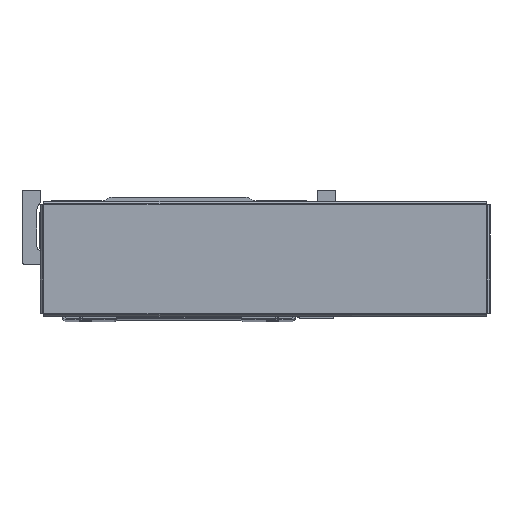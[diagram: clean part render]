
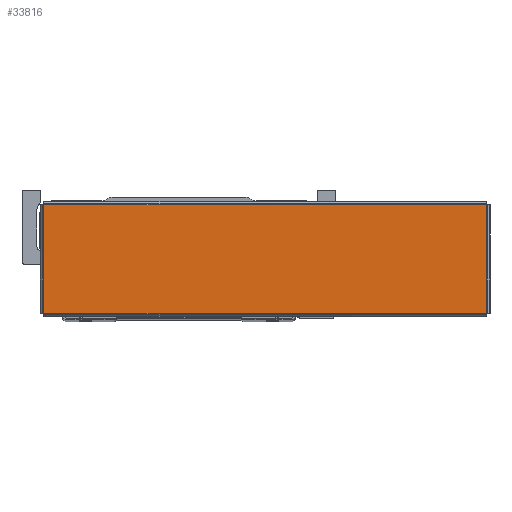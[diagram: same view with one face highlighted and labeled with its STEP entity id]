
A CAD part, top view. The second image highlights one B-rep face of the part: STEP entity #33816.
In plain terms, the highlighted planar face has unit normal (0, 0, 1) as drawn and (0, -1, 0) by its records, which use the part's own axes.
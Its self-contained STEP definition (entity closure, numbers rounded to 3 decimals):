
#1654 = EDGE_LOOP ( 'NONE', ( #19766, #14549, #14640, #14645 ) ) ;
#6686 = EDGE_CURVE ( 'NONE', #15425, #15424, #14174, .T. ) ;
#6712 = EDGE_CURVE ( 'NONE', #15434, #15421, #14223, .T. ) ;
#6724 = EDGE_CURVE ( 'NONE', #15424, #15434, #14245, .T. ) ;
#6727 = EDGE_CURVE ( 'NONE', #15421, #15425, #14290, .T. ) ;
#9306 = CARTESIAN_POINT ( 'NONE',  ( 0., -1.2, 0. ) ) ;
#9331 = PLANE ( 'NONE',  #9436 ) ;
#9333 = DIRECTION ( 'NONE',  ( 0., 0., 1. ) ) ;
#9338 = DIRECTION ( 'NONE',  ( 0., 1., 0. ) ) ;
#9436 = AXIS2_PLACEMENT_3D ( 'NONE', #9306, #9338, #9333 ) ;
#11733 = CARTESIAN_POINT ( 'NONE',  ( -128.363, -1.2, 31.393 ) ) ;
#11843 = DIRECTION ( 'NONE',  ( 0., 0., -1. ) ) ;
#11876 = CARTESIAN_POINT ( 'NONE',  ( 128.363, -1.2, -31.393 ) ) ;
#11929 = CARTESIAN_POINT ( 'NONE',  ( 128.393, -1.2, 31.363 ) ) ;
#11944 = DIRECTION ( 'NONE',  ( 0., 0., 1. ) ) ;
#11995 = DIRECTION ( 'NONE',  ( 1., 0., 0. ) ) ;
#12031 = DIRECTION ( 'NONE',  ( -1., 0., 0. ) ) ;
#12043 = CARTESIAN_POINT ( 'NONE',  ( -128.393, -1.2, -31.363 ) ) ;
#14118 = VECTOR ( 'NONE', #11843, 1000. ) ;
#14174 = LINE ( 'NONE', #11733, #14118 ) ;
#14209 = VECTOR ( 'NONE', #11944, 1000. ) ;
#14223 = LINE ( 'NONE', #11876, #14209 ) ;
#14240 = VECTOR ( 'NONE', #11995, 1000. ) ;
#14242 = VECTOR ( 'NONE', #12031, 1000. ) ;
#14245 = LINE ( 'NONE', #12043, #14240 ) ;
#14290 = LINE ( 'NONE', #11929, #14242 ) ;
#14549 = ORIENTED_EDGE ( 'NONE', *, *, #6686, .T. ) ;
#14640 = ORIENTED_EDGE ( 'NONE', *, *, #6724, .T. ) ;
#14645 = ORIENTED_EDGE ( 'NONE', *, *, #6712, .T. ) ;
#15421 = VERTEX_POINT ( 'NONE', #50531 ) ;
#15424 = VERTEX_POINT ( 'NONE', #50553 ) ;
#15425 = VERTEX_POINT ( 'NONE', #50539 ) ;
#15434 = VERTEX_POINT ( 'NONE', #50559 ) ;
#19766 = ORIENTED_EDGE ( 'NONE', *, *, #6727, .T. ) ;
#33816 = ADVANCED_FACE ( 'NONE', ( #38859 ), #9331, .F. ) ;
#38859 = FACE_OUTER_BOUND ( 'NONE', #1654, .T. ) ;
#50531 = CARTESIAN_POINT ( 'NONE',  ( 128.363, -1.2, 31.363 ) ) ;
#50539 = CARTESIAN_POINT ( 'NONE',  ( -128.363, -1.2, 31.363 ) ) ;
#50553 = CARTESIAN_POINT ( 'NONE',  ( -128.363, -1.2, -31.363 ) ) ;
#50559 = CARTESIAN_POINT ( 'NONE',  ( 128.363, -1.2, -31.363 ) ) ;
